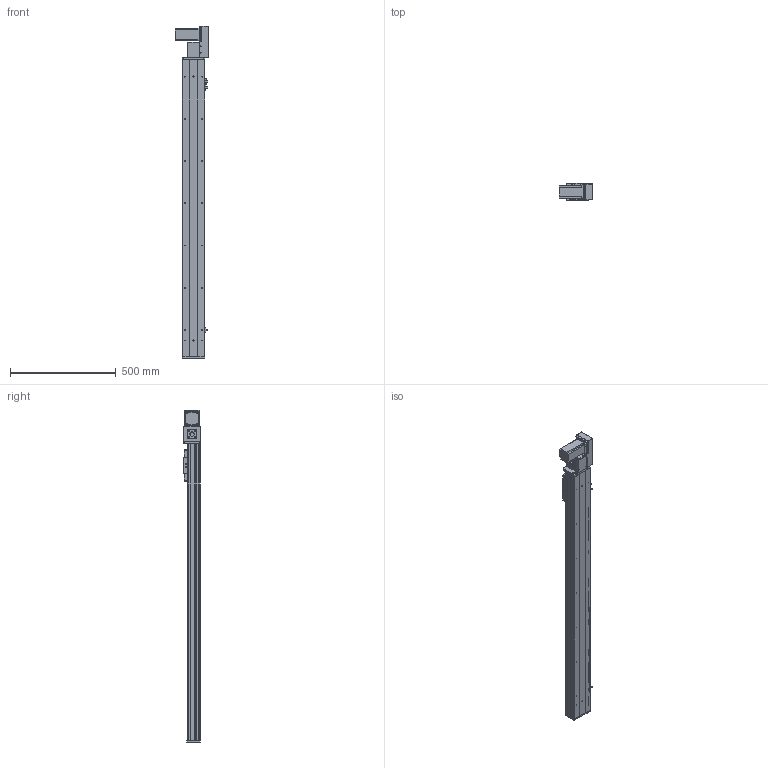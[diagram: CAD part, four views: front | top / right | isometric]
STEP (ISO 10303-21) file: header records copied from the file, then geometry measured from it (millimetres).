
FILE_DESCRIPTION (( 'STEP AP203' ), '1' );
FILE_NAME ('Y10CB-D90-S1150-BR-P400W.STEP', '2020-02-16T01:54:03', ( '微软用户' ), ( '微软中国' ), 'SwSTEP 2.0', 'SolidWorks 2017', '' );
FILE_SCHEMA (( 'CONFIG_CONTROL_DESIGN' ));
Length unit declared in the file: millimetre
Products named in the file (18): Y10B-耜蚾蟀諉啣----; 10CB9-掛极; 0B-萇儂楊擘啣; 10CB-耜裔; san松下电机400不带刹车----; Y135C-陔俋离換覜結え-; 0B-源倛裔啣; Y100-135俋离換覜ん--; 0B-埴倛裔啣; Y10B--々湍喘謫眊--666; Y俋欶BR----; 0CB-雄赽釱---; Y10CB-D90-S1150-BR-P400W; 10CB-詩湍-; 0Cb-俋欶---; Y10CB- 掛极耜裔啣-毀---; Y10B-々湍喘謫眊楊擘啣--; Y10C---詩湍揤啣
Assembly tree (21 placements, depth 2):
  Y10CB-D90-S1150-BR-P400W
    0CB-雄赽釱---
    0Cb-俋欶---
    Y10B-々湍喘謫眊楊擘啣--
    Y10B-耜蚾蟀諉啣----
    0B-萇儂楊擘啣
    san松下电机400不带刹车----
    0B-源倛裔啣
    0B-埴倛裔啣
    Y俋欶BR----
    10CB-詩湍-
    Y10CB- 掛极耜裔啣-毀---  x2
    Y10C---詩湍揤啣  x2
    10CB9-掛极
    10CB-耜裔
    Y135C-陔俋离換覜結え-
    Y100-135俋离換覜ん--  x3
    Y10B--々湍喘謫眊--666
Bounding box: 157.5 x 80.5 x 1572.5 mm (x, y, z)
Volume: 3398370.1 mm3; surface area: 1544794.1 mm2
Topology: 21 solids, 21 shells, 1002 faces, 2683 edges, 1754 vertices
Faces by surface type: cylinder 497, plane 481, cone 24
Entity records: 31404 total; most frequent: CARTESIAN_POINT 5617, DIRECTION 5062, ORIENTED_EDGE 4836, EDGE_CURVE 2418, AXIS2_PLACEMENT_3D 1809, VERTEX_POINT 1580, LINE 1444, VECTOR 1444
